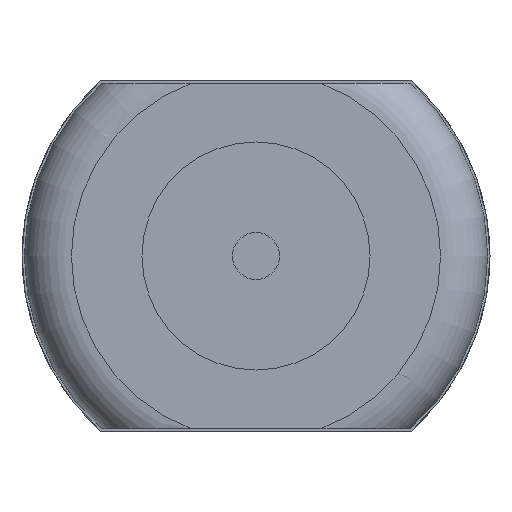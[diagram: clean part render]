
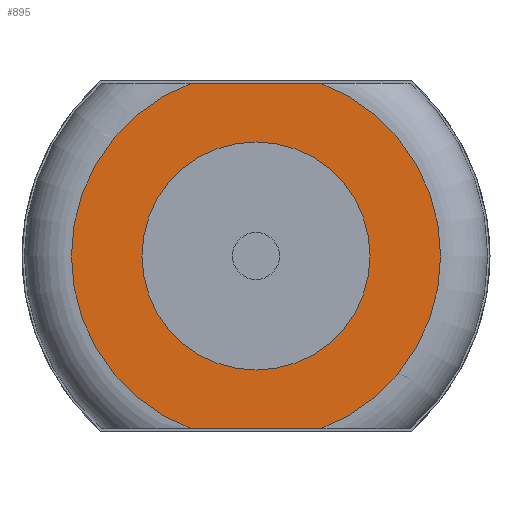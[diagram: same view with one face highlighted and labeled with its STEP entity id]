
A CAD part, front view. The second image highlights one B-rep face of the part: STEP entity #895.
In plain terms, the highlighted planar face has unit normal (0, -1, 0).
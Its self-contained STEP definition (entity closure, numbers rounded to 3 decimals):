
#6 = VERTEX_POINT ( 'NONE', #670 ) ;
#17 = DIRECTION ( 'NONE',  ( 0., 1., 0. ) ) ;
#22 = ORIENTED_EDGE ( 'NONE', *, *, #343, .T. ) ;
#69 = CIRCLE ( 'NONE', #688, 4.85 ) ;
#125 = CARTESIAN_POINT ( 'NONE',  ( 0., -5., 0. ) ) ;
#152 = LINE ( 'NONE', #490, #774 ) ;
#172 = AXIS2_PLACEMENT_3D ( 'NONE', #427, #795, #362 ) ;
#185 = EDGE_CURVE ( 'NONE', #678, #6, #152, .T. ) ;
#211 = PLANE ( 'NONE',  #831 ) ;
#224 = EDGE_CURVE ( 'NONE', #6, #749, #396, .T. ) ;
#270 = CIRCLE ( 'NONE', #372, 7.85 ) ;
#286 = VERTEX_POINT ( 'NONE', #647 ) ;
#297 = LINE ( 'NONE', #317, #906 ) ;
#303 = DIRECTION ( 'NONE',  ( 0., 0., 1. ) ) ;
#317 = CARTESIAN_POINT ( 'NONE',  ( 6.557, -5., 7.35 ) ) ;
#318 = EDGE_CURVE ( 'NONE', #286, #461, #69, .T. ) ;
#322 = CARTESIAN_POINT ( 'NONE',  ( -2.757, -5., 7.35 ) ) ;
#332 = DIRECTION ( 'NONE',  ( 0., 1., 0. ) ) ;
#343 = EDGE_CURVE ( 'NONE', #461, #286, #830, .T. ) ;
#354 = ORIENTED_EDGE ( 'NONE', *, *, #814, .T. ) ;
#362 = DIRECTION ( 'NONE',  ( 0., 0., 1. ) ) ;
#372 = AXIS2_PLACEMENT_3D ( 'NONE', #125, #779, #472 ) ;
#396 = CIRCLE ( 'NONE', #172, 7.85 ) ;
#427 = CARTESIAN_POINT ( 'NONE',  ( 0., -5., 0. ) ) ;
#460 = DIRECTION ( 'NONE',  ( -1., 0., 0. ) ) ;
#461 = VERTEX_POINT ( 'NONE', #680 ) ;
#472 = DIRECTION ( 'NONE',  ( 0., 0., 1. ) ) ;
#487 = FACE_BOUND ( 'NONE', #685, .T. ) ;
#490 = CARTESIAN_POINT ( 'NONE',  ( -6.557, -5., -7.35 ) ) ;
#492 = CARTESIAN_POINT ( 'NONE',  ( 0., -5., 0. ) ) ;
#510 = CARTESIAN_POINT ( 'NONE',  ( 0., -5., 0. ) ) ;
#516 = ORIENTED_EDGE ( 'NONE', *, *, #224, .T. ) ;
#567 = FACE_OUTER_BOUND ( 'NONE', #793, .T. ) ;
#585 = CARTESIAN_POINT ( 'NONE',  ( -2.757, -5., -7.35 ) ) ;
#612 = CARTESIAN_POINT ( 'NONE',  ( 0., -5., 0. ) ) ;
#615 = AXIS2_PLACEMENT_3D ( 'NONE', #510, #17, #303 ) ;
#647 = CARTESIAN_POINT ( 'NONE',  ( 0., -5., 4.85 ) ) ;
#662 = EDGE_CURVE ( 'NONE', #749, #728, #297, .T. ) ;
#669 = DIRECTION ( 'NONE',  ( 0., 0., 1. ) ) ;
#670 = CARTESIAN_POINT ( 'NONE',  ( 2.757, -5., -7.35 ) ) ;
#678 = VERTEX_POINT ( 'NONE', #585 ) ;
#680 = CARTESIAN_POINT ( 'NONE',  ( 0., -5., -4.85 ) ) ;
#685 = EDGE_LOOP ( 'NONE', ( #886, #22 ) ) ;
#688 = AXIS2_PLACEMENT_3D ( 'NONE', #612, #871, #669 ) ;
#710 = ORIENTED_EDGE ( 'NONE', *, *, #185, .T. ) ;
#728 = VERTEX_POINT ( 'NONE', #322 ) ;
#738 = ORIENTED_EDGE ( 'NONE', *, *, #662, .T. ) ;
#749 = VERTEX_POINT ( 'NONE', #826 ) ;
#774 = VECTOR ( 'NONE', #786, 1000. ) ;
#779 = DIRECTION ( 'NONE',  ( 0., -1., 0. ) ) ;
#783 = DIRECTION ( 'NONE',  ( 0., 0., 1. ) ) ;
#786 = DIRECTION ( 'NONE',  ( 1., 0., 0. ) ) ;
#793 = EDGE_LOOP ( 'NONE', ( #710, #516, #738, #354 ) ) ;
#795 = DIRECTION ( 'NONE',  ( 0., -1., 0. ) ) ;
#814 = EDGE_CURVE ( 'NONE', #728, #678, #270, .T. ) ;
#826 = CARTESIAN_POINT ( 'NONE',  ( 2.757, -5., 7.35 ) ) ;
#830 = CIRCLE ( 'NONE', #615, 4.85 ) ;
#831 = AXIS2_PLACEMENT_3D ( 'NONE', #492, #332, #783 ) ;
#871 = DIRECTION ( 'NONE',  ( 0., 1., 0. ) ) ;
#886 = ORIENTED_EDGE ( 'NONE', *, *, #318, .T. ) ;
#895 = ADVANCED_FACE ( 'NONE', ( #487, #567 ), #211, .F. ) ;
#906 = VECTOR ( 'NONE', #460, 1000. ) ;
